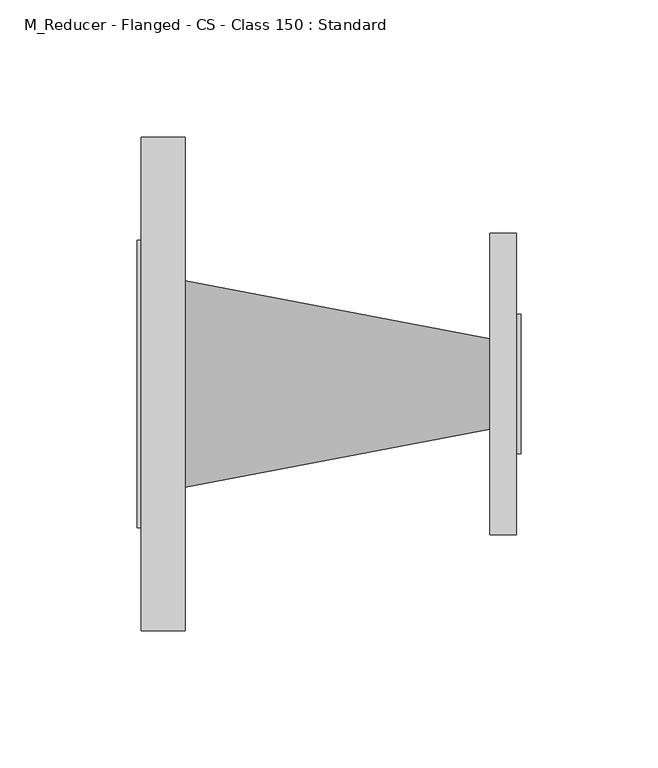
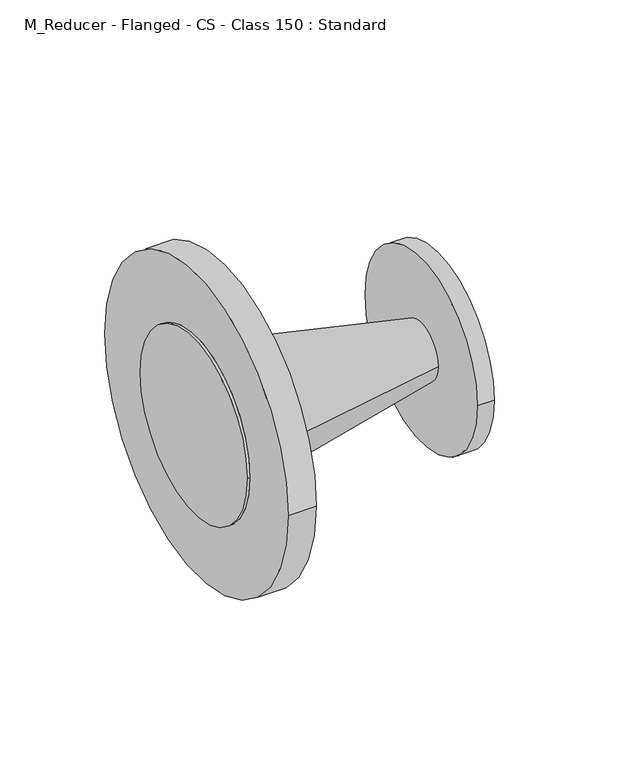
"""IFC4 building model written with IfcOpenShell, lengths in millimetres: pipe fitting geometry, M_Reducer - Flanged - CS - Class 150 : Standard."""

from ifc_helpers import new_model, si_unit, frame, origin, place, context, project, spatial, polyline, circle_curve, source, transform, mapped, element, save
from ifc_brep_helpers import plane_surface, cylinder_surface, revolved_surface, advanced_brep


def m_reducer_flanged_cs_class_150_standard_fb6801e4(model_context):
    return source(origin(), model_context, "Body", "AdvancedBrep", [
        advanced_brep(
        [(17.4875, -90.0, 0.0), (17.4875, 90.0, 0.0), (17.4875, 37.6, 0.0), (17.4875, -37.6, 0.0), (1.5875, -90.0, 0.0), (1.5875, 90.0, 0.0), (1.5875, -52.4, 0.0), (1.5875, 52.4, 0.0), (128.8125, 16.5, 0.0), (128.8125, -16.5, 0.0), (138.4125, -55.0, 0.0), (138.4125, 55.0, 0.0), (138.4125, 25.4, 0.0), (138.4125, -25.4, 0.0), (128.8125, -55.0, 0.0), (128.8125, 55.0, 0.0), (0.0, -52.4, 0.0), (0.0, 52.4, 0.0), (140.0, -25.4, 0.0), (140.0, 25.4, 0.0)],
        [
            (0, 1, circle_curve(frame((17.4875, 0.0, 0.0), z_axis=(1.0, 0.0, 0.0), x_axis=(0.0, 1.0, 0.0)), 90.0)),
            (1, 0, circle_curve(frame((17.4875, 0.0, 0.0), z_axis=(1.0, 0.0, 0.0), x_axis=(0.0, 1.0, 0.0)), 90.0)),
            (2, 3, circle_curve(frame((17.4875, 0.0, 0.0), z_axis=(-1.0, 0.0, 0.0), x_axis=(0.0, -1.0, 0.0)), 37.6)),
            (3, 2, circle_curve(frame((17.4875, 0.0, 0.0), z_axis=(-1.0, 0.0, 0.0), x_axis=(0.0, 1.0, 0.0)), 37.6)),
            (4, 5, circle_curve(frame((1.5875, 0.0, 0.0), z_axis=(-1.0, 0.0, 0.0), x_axis=(0.0, 1.0, 0.0)), 90.0)),
            (5, 4, circle_curve(frame((1.5875, 0.0, 0.0), z_axis=(-1.0, 0.0, 0.0), x_axis=(0.0, 1.0, 0.0)), 90.0)),
            (6, 7, circle_curve(frame((1.5875, 0.0, 0.0), z_axis=(1.0, 0.0, 0.0), x_axis=(0.0, 1.0, 0.0)), 52.4)),
            (7, 6, circle_curve(frame((1.5875, 0.0, 0.0), z_axis=(1.0, 0.0, 0.0), x_axis=(0.0, 1.0, 0.0)), 52.4)),
            (0, 4),
            (5, 1),
            (2, 8),
            (8, 9, circle_curve(frame((128.8125, 0.0, 0.0), z_axis=(-1.0, 0.0, 0.0), x_axis=(0.0, -1.0, 0.0)), 16.5)),
            (9, 3),
            (9, 8, circle_curve(frame((128.8125, 0.0, 0.0), z_axis=(-1.0, 0.0, 0.0), x_axis=(0.0, 1.0, 0.0)), 16.5)),
            (10, 11, circle_curve(frame((138.4125, 0.0, 0.0), z_axis=(1.0, 0.0, 0.0), x_axis=(0.0, 1.0, 0.0)), 55.0)),
            (11, 10, circle_curve(frame((138.4125, 0.0, 0.0), z_axis=(1.0, 0.0, 0.0), x_axis=(0.0, 1.0, 0.0)), 55.0)),
            (12, 13, circle_curve(frame((138.4125, 0.0, 0.0), z_axis=(-1.0, 0.0, 0.0), x_axis=(0.0, 1.0, 0.0)), 25.4)),
            (13, 12, circle_curve(frame((138.4125, 0.0, 0.0), z_axis=(-1.0, 0.0, 0.0), x_axis=(0.0, 1.0, 0.0)), 25.4)),
            (14, 15, circle_curve(frame((128.8125, 0.0, 0.0), z_axis=(-1.0, 0.0, 0.0), x_axis=(0.0, 1.0, 0.0)), 55.0)),
            (15, 14, circle_curve(frame((128.8125, 0.0, 0.0), z_axis=(-1.0, 0.0, 0.0), x_axis=(0.0, 1.0, 0.0)), 55.0)),
            (10, 14),
            (15, 11),
            (16, 17, circle_curve(frame((0.0, 0.0, 0.0), z_axis=(-1.0, 0.0, 0.0), x_axis=(0.0, 1.0, 0.0)), 52.4)),
            (17, 16, circle_curve(frame((0.0, 0.0, 0.0), z_axis=(-1.0, 0.0, 0.0), x_axis=(0.0, 1.0, 0.0)), 52.4)),
            (17, 7),
            (6, 16),
            (18, 19, circle_curve(frame((140.0, 0.0, 0.0), z_axis=(1.0, 0.0, 0.0), x_axis=(0.0, 1.0, 0.0)), 25.4)),
            (19, 18, circle_curve(frame((140.0, 0.0, 0.0), z_axis=(1.0, 0.0, 0.0), x_axis=(0.0, 1.0, 0.0)), 25.4)),
            (18, 13),
            (12, 19),
        ],
        [
            plane_surface(frame((17.4875, 90.0, 0.0), z_axis=(1.0, 0.0, 0.0), x_axis=(0.0, 0.0, 1.0))),
            plane_surface(frame((1.5875, 90.0, 0.0), z_axis=(-1.0, 0.0, 0.0), x_axis=(0.0, 0.0, -1.0))),
            cylinder_surface(frame((1.5875, 0.0, 0.0), z_axis=(1.0, 0.0, 0.0), x_axis=(0.0, 1.0, 0.0)), 90.0),
            revolved_surface(polyline([(128.8125, 16.500000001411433, 0.0), (17.48750000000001, 37.6, 0.0)]), (215.8675948, 0.0, 0.0), (-1.0, 0.0, 0.0)),
            plane_surface(frame((138.4125, 55.0, 0.0), z_axis=(1.0, 0.0, 0.0), x_axis=(0.0, 0.0, 1.0))),
            plane_surface(frame((128.8125, 55.0, 0.0), z_axis=(-1.0, 0.0, 0.0), x_axis=(0.0, 0.0, -1.0))),
            cylinder_surface(frame((128.8125, 0.0, 0.0), z_axis=(1.0, 0.0, 0.0), x_axis=(0.0, 1.0, 0.0)), 55.0),
            plane_surface(frame((0.0, 52.4, 0.0), z_axis=(-1.0, 0.0, 0.0), x_axis=(0.0, 0.0, -1.0))),
            cylinder_surface(frame((0.0, 0.0, 0.0), z_axis=(1.0, 0.0, 0.0), x_axis=(0.0, 1.0, 0.0)), 52.4),
            plane_surface(frame((140.0, 25.4, 0.0), z_axis=(1.0, 0.0, 0.0), x_axis=(0.0, 0.0, 1.0))),
            cylinder_surface(frame((138.4125, 0.0, 0.0), z_axis=(1.0, 0.0, 0.0), x_axis=(0.0, 1.0, 0.0)), 25.4),
        ],
        [
            (0, [[1, 2], [3, 4]]),
            (1, [[5, 6], [7, 8]]),
            (2, [[-1, 9, -6, 10]]),
            (2, [[-2, -10, -5, -9]]),
            (3, [[11, 12, 13, -3]]),
            (3, [[-11, -4, -13, 14]]),
            (4, [[15, 16], [17, 18]]),
            (5, [[19, 20], [-12, -14]]),
            (6, [[-15, 21, -20, 22]]),
            (6, [[-16, -22, -19, -21]]),
            (7, [[23, 24]]),
            (8, [[-24, 25, -7, 26]]),
            (8, [[-23, -26, -8, -25]]),
            (9, [[27, 28]]),
            (10, [[-27, 29, -17, 30]]),
            (10, [[-28, -30, -18, -29]]),
        ],
    ),
    ])


if __name__ == "__main__":
    model = new_model("IFC4")
    model_context = context("Model", 3, world=origin())
    ifc_project = project(units=[si_unit("LENGTHUNIT", "METRE", prefix="MILLI")], contexts=[model_context])
    site = spatial("IfcSite", under=ifc_project)
    building = spatial("IfcBuilding", under=site)
    placement = place(None, origin())
    m_reducer_flanged_cs_class_150_standard_shape = m_reducer_flanged_cs_class_150_standard_fb6801e4(model_context)
    element("IfcPipeFitting", 1, ObjectType="M_Reducer - Flanged - CS - Class 150 : Standard", at=placement, inside=building, context=model_context, shape_type="MappedRepresentation", body=[
        mapped(m_reducer_flanged_cs_class_150_standard_shape, transform((0.0, 0.0, 0.0), x_axis=(1.0, 0.0, 0.0), y_axis=(0.0, 1.0, 0.0), z_axis=(0.0, 0.0, 1.0))),
    ])
    save(model, "model.ifc")
